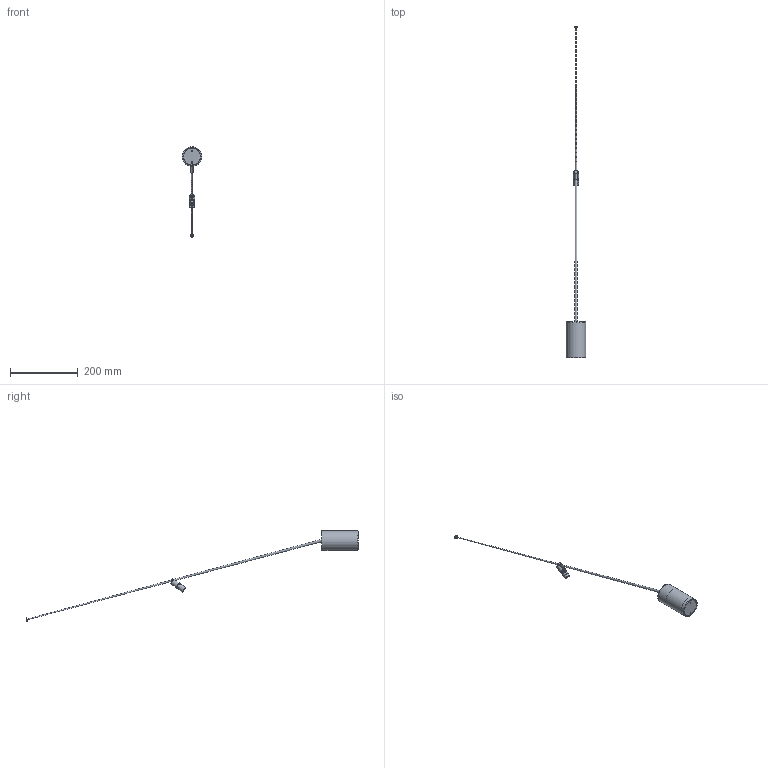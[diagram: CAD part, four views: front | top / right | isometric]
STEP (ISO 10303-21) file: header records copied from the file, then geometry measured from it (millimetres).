
FILE_DESCRIPTION(/* description */ (''),/* implementation_level */ '2;1');
FILE_NAME(/* name */ 'C:\Users\S.Guardiani\Desktop\1A244XX00.stp',/* time_stamp */ '2022-11-07T15:10:06+01:00',/* author */ ('s.guardiani'),/* organization */ (''),/* preprocessor_version */ 'ST-DEVELOPER v18.1',/* originating_system */ 'Autodesk Inventor 2021',/* authorisation */ '');
FILE_SCHEMA (('AUTOMOTIVE_DESIGN { 1 0 10303 214 3 1 1 }'));
Length unit declared in the file: millimetre
Products named in the file (1): Parte1
Bounding box: 58 x 982.32 x 267.86 mm (x, y, z)
Volume: 172015.5 mm3; surface area: 78495.9 mm2
Topology: 22 solids, 22 shells, 326 faces, 784 edges, 519 vertices
Faces by surface type: plane 161, cylinder 89, cone 74, torus 2
Full cylindrical faces by diameter (mm): 2 x4, 2.25 x1, 2.459 x1, 2.5 x1, 2.75 x1, 3 x3, 3.2 x2, 3.25 x2, 3.45 x1, 3.5 x3, 4.5 x2, 4.8 x1, 5.2 x1, 5.54 x1, 7 x2, 8 x1, 10 x1, 15 x1, 16 x1, 16.2 x1, 17 x1, 33 x1, 50 x2, 51 x1, 52 x1, 54 x1, 55 x2, 55.8 x1, 56 x1, 58 x1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
Entity records: 10406 total; most frequent: CARTESIAN_POINT 2390, DIRECTION 1653, ORIENTED_EDGE 1554, EDGE_CURVE 777, AXIS2_PLACEMENT_3D 677, VERTEX_POINT 519, EDGE_LOOP 378, FACE_OUTER_BOUND 326
